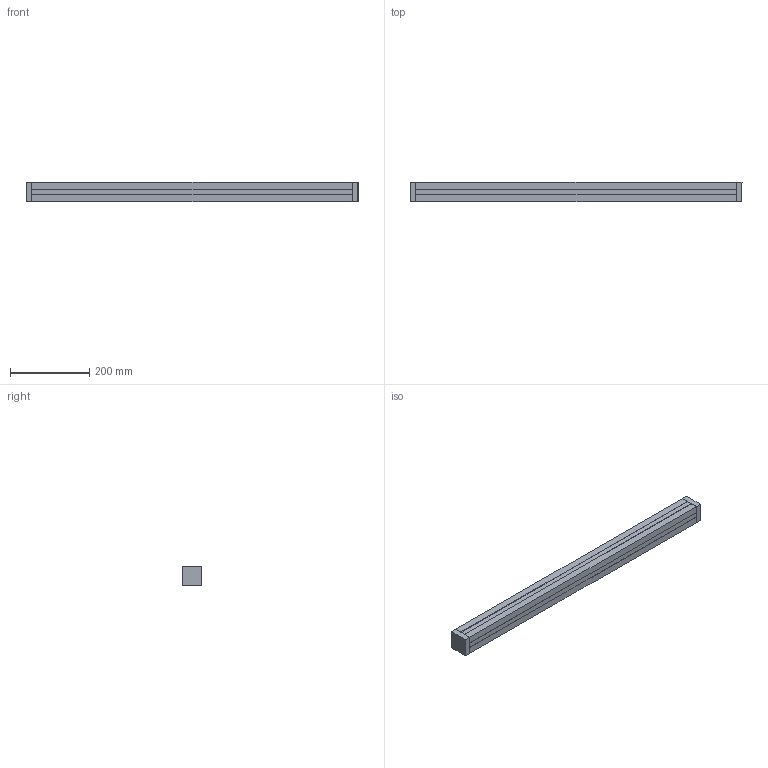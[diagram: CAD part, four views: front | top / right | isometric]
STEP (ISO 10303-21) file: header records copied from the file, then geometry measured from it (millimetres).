
FILE_DESCRIPTION (( 'STEP AP214' ), '1' );
FILE_NAME ('PIL5050SNN-810MM.STEP', '2021-03-08T22:52:44', ( '' ), ( '' ), 'SwSTEP 2.0', 'SolidWorks 2021', '' );
FILE_SCHEMA (( 'AUTOMOTIVE_DESIGN' ));
Length unit declared in the file: inch
Products named in the file (1): PIL5050SNN-810MM
Bounding box: 840 x 50 x 50 mm (x, y, z)
Volume: 1372506.5 mm3; surface area: 533440.3 mm2
Topology: 6 solids, 6 shells, 110 faces, 294 edges, 196 vertices
Faces by surface type: plane 108, cylinder 2
Entity records: 4891 total; most frequent: CARTESIAN_POINT 601, ORIENTED_EDGE 588, DIRECTION 520, EDGE_CURVE 294, VECTOR 290, LINE 290, VERTEX_POINT 196, DIMENSIONAL_EXPONENTS 118
